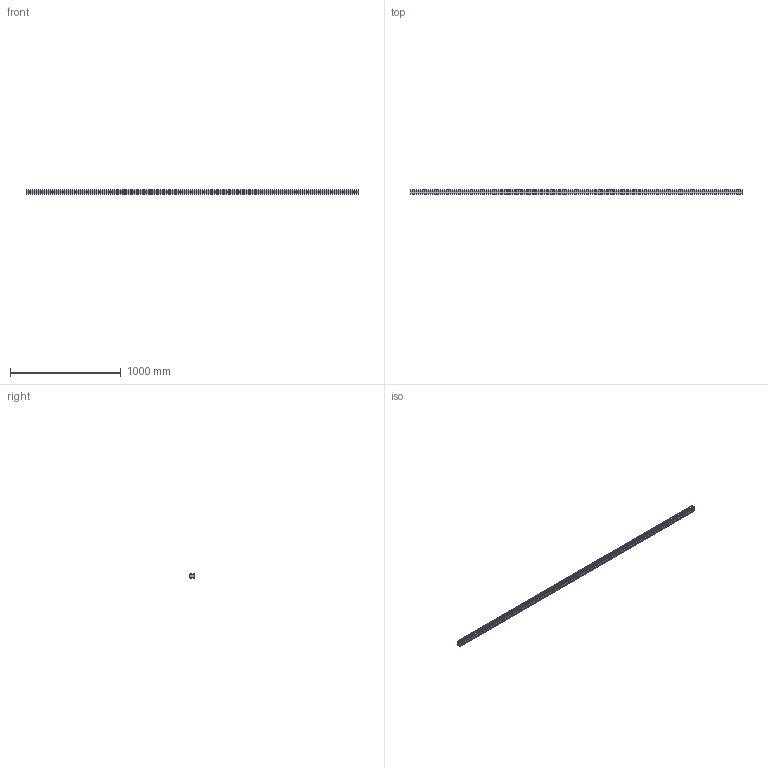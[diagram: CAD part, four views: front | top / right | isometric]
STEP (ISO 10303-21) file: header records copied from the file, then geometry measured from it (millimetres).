
FILE_DESCRIPTION(('CATIA V5 STEP Exchange'),'2;1');
FILE_NAME('C:\Users\14044\Desktop\HSV45C1SS+3000L\HSV45_RAIL_3000L.stp','2015-12-07T01:29:33+00:00',('none'),('none'),'Version 5-6 Release 2012','CATIA V5 STEP AP203','none');
FILE_SCHEMA(('CONFIG_CONTROL_DESIGN'));
Length unit declared in the file: millimetre
Products named in the file (1): HSV45_RAIL_3000L
Bounding box: 3000 x 38 x 45 mm (x, y, z)
Volume: 4214179.6 mm3; surface area: 567925.7 mm2
Topology: 1 solids, 1 shells, 179 faces, 444 edges, 386 vertices
Faces by surface type: cylinder 120, plane 59
Entity records: 4977 total; most frequent: CARTESIAN_POINT 916, ORIENTED_EDGE 888, DIRECTION 614, EDGE_CURVE 444, AXIS2_PLACEMENT_3D 326, VERTEX_POINT 296, EDGE_LOOP 266, CIRCLE 240
